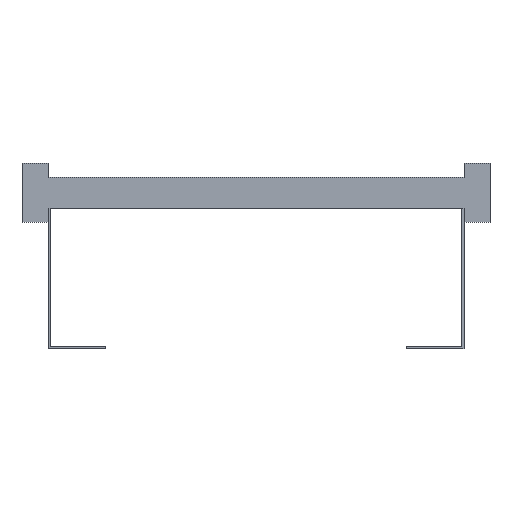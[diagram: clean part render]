
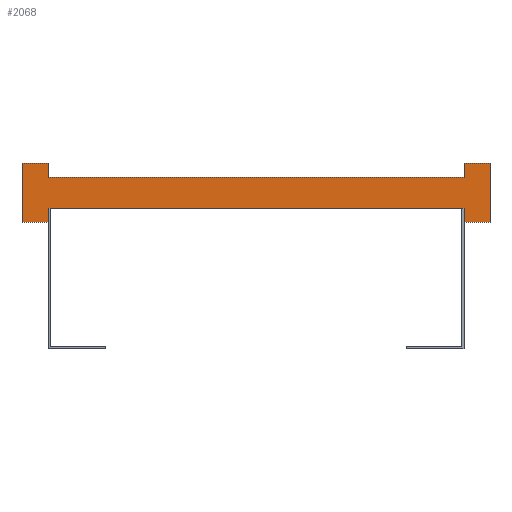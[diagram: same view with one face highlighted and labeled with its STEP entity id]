
A CAD part, front view. The second image highlights one B-rep face of the part: STEP entity #2068.
In plain terms, the highlighted planar face has unit normal (0, -1, 0).
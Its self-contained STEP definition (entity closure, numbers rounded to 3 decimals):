
#1=DIRECTION('',(0.,0.,1.));
#2=VECTOR('',#1,13.5);
#3=CARTESIAN_POINT('',(200.,0.,-28.5));
#4=LINE('',#3,#2);
#5=DIRECTION('',(0.,0.,-1.));
#6=VECTOR('',#5,13.5);
#7=CARTESIAN_POINT('',(-200.,0.,-15.));
#8=LINE('',#7,#6);
#9=DIRECTION('',(-1.,0.,0.));
#10=VECTOR('',#9,25.);
#11=CARTESIAN_POINT('',(-200.,0.,-28.5));
#12=LINE('',#11,#10);
#13=DIRECTION('',(0.,0.,1.));
#14=VECTOR('',#13,57.);
#15=CARTESIAN_POINT('',(-225.,0.,-28.5));
#16=LINE('',#15,#14);
#17=DIRECTION('',(1.,0.,0.));
#18=VECTOR('',#17,25.);
#19=CARTESIAN_POINT('',(-225.,0.,28.5));
#20=LINE('',#19,#18);
#21=DIRECTION('',(0.,0.,-1.));
#22=VECTOR('',#21,13.5);
#23=CARTESIAN_POINT('',(-200.,0.,28.5));
#24=LINE('',#23,#22);
#25=DIRECTION('',(0.,0.,1.));
#26=VECTOR('',#25,13.5);
#27=CARTESIAN_POINT('',(200.,0.,15.));
#28=LINE('',#27,#26);
#29=DIRECTION('',(1.,0.,0.));
#30=VECTOR('',#29,25.);
#31=CARTESIAN_POINT('',(200.,0.,28.5));
#32=LINE('',#31,#30);
#33=DIRECTION('',(0.,0.,-1.));
#34=VECTOR('',#33,57.);
#35=CARTESIAN_POINT('',(225.,0.,28.5));
#36=LINE('',#35,#34);
#37=DIRECTION('',(-1.,0.,0.));
#38=VECTOR('',#37,25.);
#39=CARTESIAN_POINT('',(225.,0.,-28.5));
#40=LINE('',#39,#38);
#1521=DIRECTION('',(1.,0.,0.));
#1522=VECTOR('',#1521,400.);
#1523=CARTESIAN_POINT('',(-200.,0.,-15.));
#1524=LINE('',#1523,#1522);
#1533=DIRECTION('',(1.,0.,0.));
#1534=VECTOR('',#1533,400.);
#1535=CARTESIAN_POINT('',(-200.,0.,15.));
#1536=LINE('',#1535,#1534);
#1537=CARTESIAN_POINT('',(-225.,0.,28.5));
#1538=CARTESIAN_POINT('',(-200.,0.,28.5));
#1539=VERTEX_POINT('',#1537);
#1540=VERTEX_POINT('',#1538);
#1541=CARTESIAN_POINT('',(-200.,0.,-28.5));
#1542=CARTESIAN_POINT('',(-225.,0.,-28.5));
#1543=VERTEX_POINT('',#1541);
#1544=VERTEX_POINT('',#1542);
#1545=CARTESIAN_POINT('',(225.,0.,28.5));
#1546=CARTESIAN_POINT('',(225.,0.,-28.5));
#1547=VERTEX_POINT('',#1545);
#1548=VERTEX_POINT('',#1546);
#1549=CARTESIAN_POINT('',(200.,0.,-28.5));
#1550=VERTEX_POINT('',#1549);
#1551=CARTESIAN_POINT('',(200.,0.,28.5));
#1552=VERTEX_POINT('',#1551);
#1569=CARTESIAN_POINT('',(-200.,0.,-15.));
#1571=VERTEX_POINT('',#1569);
#1573=CARTESIAN_POINT('',(-200.,0.,15.));
#1575=VERTEX_POINT('',#1573);
#1577=CARTESIAN_POINT('',(200.,0.,-15.));
#1579=VERTEX_POINT('',#1577);
#1581=CARTESIAN_POINT('',(200.,0.,15.));
#1583=VERTEX_POINT('',#1581);
#2037=CARTESIAN_POINT('',(0.,0.,0.));
#2038=DIRECTION('',(0.,1.,0.));
#2039=DIRECTION('',(1.,0.,0.));
#2040=AXIS2_PLACEMENT_3D('',#2037,#2038,#2039);
#2041=PLANE('',#2040);
#2043=ORIENTED_EDGE('',*,*,#2042,.T.);
#2045=ORIENTED_EDGE('',*,*,#2044,.F.);
#2047=ORIENTED_EDGE('',*,*,#2046,.T.);
#2049=ORIENTED_EDGE('',*,*,#2048,.T.);
#2051=ORIENTED_EDGE('',*,*,#2050,.T.);
#2053=ORIENTED_EDGE('',*,*,#2052,.T.);
#2055=ORIENTED_EDGE('',*,*,#2054,.T.);
#2057=ORIENTED_EDGE('',*,*,#2056,.T.);
#2059=ORIENTED_EDGE('',*,*,#2058,.T.);
#2061=ORIENTED_EDGE('',*,*,#2060,.T.);
#2063=ORIENTED_EDGE('',*,*,#2062,.T.);
#2065=ORIENTED_EDGE('',*,*,#2064,.T.);
#2066=EDGE_LOOP('',(#2043,#2045,#2047,#2049,#2051,#2053,#2055,#2057,#2059,#2061,
#2063,#2065));
#2067=FACE_OUTER_BOUND('',#2066,.F.);
#2068=ADVANCED_FACE('',(#2067),#2041,.F.);
#2042=EDGE_CURVE('',#1550,#1579,#4,.T.);
#2044=EDGE_CURVE('',#1571,#1579,#1524,.T.);
#2046=EDGE_CURVE('',#1571,#1543,#8,.T.);
#2048=EDGE_CURVE('',#1543,#1544,#12,.T.);
#2050=EDGE_CURVE('',#1544,#1539,#16,.T.);
#2052=EDGE_CURVE('',#1539,#1540,#20,.T.);
#2054=EDGE_CURVE('',#1540,#1575,#24,.T.);
#2056=EDGE_CURVE('',#1575,#1583,#1536,.T.);
#2058=EDGE_CURVE('',#1583,#1552,#28,.T.);
#2060=EDGE_CURVE('',#1552,#1547,#32,.T.);
#2062=EDGE_CURVE('',#1547,#1548,#36,.T.);
#2064=EDGE_CURVE('',#1548,#1550,#40,.T.);
